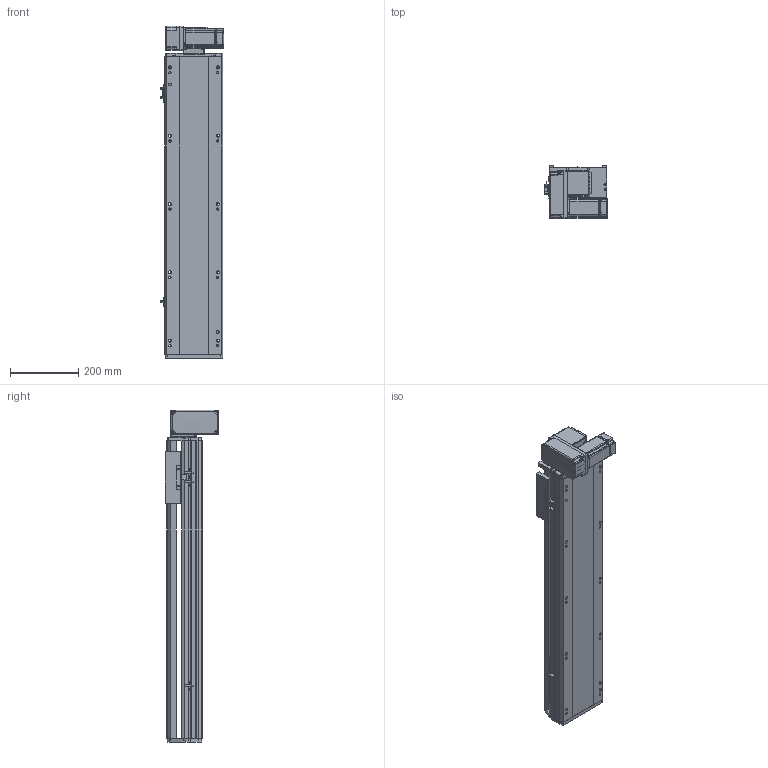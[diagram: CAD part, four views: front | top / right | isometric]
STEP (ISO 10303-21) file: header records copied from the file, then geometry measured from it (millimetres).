
FILE_DESCRIPTION (( 'STEP AP214' ), '1' );
FILE_NAME ('RTB17S-XX-600-LM-M40-C4.STEP', '2025-12-11T06:23:31', ( '' ), ( '' ), 'SwSTEP 2.0', 'SolidWorks 2018', '' );
FILE_SCHEMA (( 'AUTOMOTIVE_DESIGN' ));
Length unit declared in the file: millimetre
Products named in the file (14): OMRON EE-SX672 传感器^RTB17S-XX-XX-LM-M40-C4; RTB17S-L-007奻裔^RTB17S-XX-XX-LM-M40-C4; 400W侜督萇儂^RTB17S-XX-XX-LM-M40-C4; RTB14-L-005P--轴承塑胶压盖^RTB17S-LM-皮带座装配-400W_RTB17S-XX-XX-LM-M40-C4; RTH13-BL-012覜茼え俋离^RTB17S-XX-XX-LM-M40-C4; RTB17S-XX-600-LM-M40-C4; RTB14-L-017P^RTB17S-LM-々湍釱蚾饜-400W_RTB17S-XX-XX-LM-M40-C4; RTB17-R-011菁釱^RTB17S-XX-XX-LM-M40-C4; RTB14-L-018P^RTB17S-LM-々湍釱蚾饜-400W_RTB17S-XX-XX-LM-M40-C4; RMP17S-L-014-T20--々湍釱^RTB17S-LM-々湍釱蚾饜-400W_RTB17S-XX-XX-LM-M40-C4; RTB17S-LM-々湍釱蚾饜-400W^RTB17S-XX-XX-LM-M40-C4; RTB17S-L-004佪裝蹟譫蟀諉釱^RTB17S-XX-XX-LM-M40-C4; RTB17S-L-001耜醱啣^RTB17S-XX-XX-LM-M40-C4; RTB14-L-008-M20--萇儂啣^RTB17S-LM-々湍釱蚾饜-400W_RTB17S-XX-XX-LM-M40-C4
Assembly tree (16 placements, depth 3):
  RTB17S-XX-600-LM-M40-C4
    RTB17-R-011菁釱^RTB17S-XX-XX-LM-M40-C4
    RTB17S-L-007奻裔^RTB17S-XX-XX-LM-M40-C4
    OMRON EE-SX672 传感器^RTB17S-XX-XX-LM-M40-C4  x3
    RTH13-BL-012覜茼え俋离^RTB17S-XX-XX-LM-M40-C4
    RTB17S-L-001耜醱啣^RTB17S-XX-XX-LM-M40-C4
    400W侜督萇儂^RTB17S-XX-XX-LM-M40-C4
    RTB17S-L-004佪裝蹟譫蟀諉釱^RTB17S-XX-XX-LM-M40-C4
    RTB17S-LM-々湍釱蚾饜-400W^RTB17S-XX-XX-LM-M40-C4
      RMP17S-L-014-T20--々湍釱^RTB17S-LM-々湍釱蚾饜-400W_RTB17S-XX-XX-LM-M40-C4
      RTB14-L-005P--轴承塑胶压盖^RTB17S-LM-皮带座装配-400W_RTB17S-XX-XX-LM-M40-C4
      RTB14-L-008-M20--萇儂啣^RTB17S-LM-々湍釱蚾饜-400W_RTB17S-XX-XX-LM-M40-C4
      RTB14-L-017P^RTB17S-LM-々湍釱蚾饜-400W_RTB17S-XX-XX-LM-M40-C4  x2
      RTB14-L-018P^RTB17S-LM-々湍釱蚾饜-400W_RTB17S-XX-XX-LM-M40-C4
Bounding box: 186 x 156.5 x 972.5 mm (x, y, z)
Volume: 9115026 mm3; surface area: 1141449 mm2
Topology: 15 solids, 15 shells, 2173 faces, 5979 edges, 3897 vertices
Faces by surface type: plane 1064, cylinder 661, bspline 301, cone 139, torus 8
Entity records: 61097 total; most frequent: CARTESIAN_POINT 16984, ORIENTED_EDGE 8802, DIRECTION 8216, EDGE_CURVE 4401, VERTEX_POINT 2885, AXIS2_PLACEMENT_3D 2815, LINE 2586, VECTOR 2586
